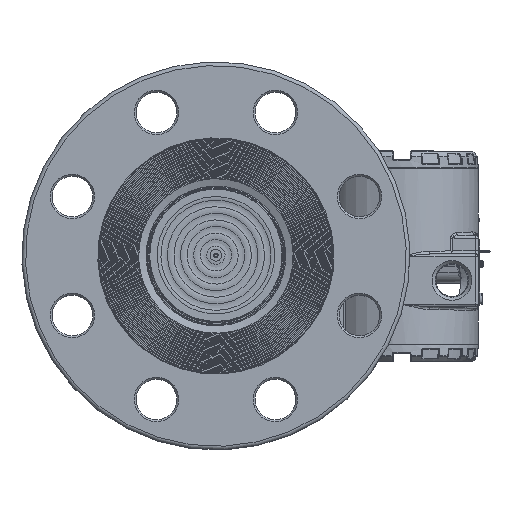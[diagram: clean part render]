
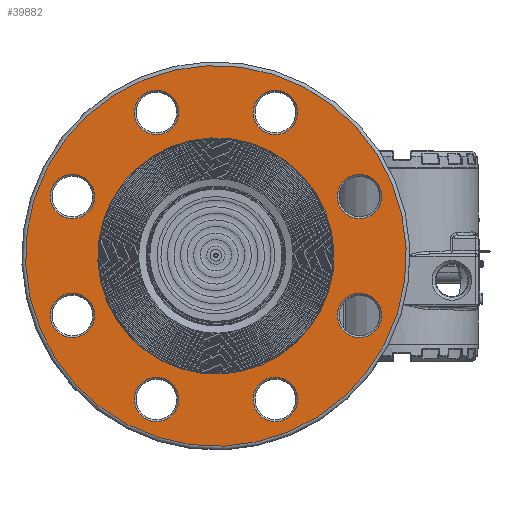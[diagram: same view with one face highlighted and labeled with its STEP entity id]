
A CAD part, top view. The second image highlights one B-rep face of the part: STEP entity #39882.
In plain terms, the highlighted planar face has unit normal (0, 0, 1).
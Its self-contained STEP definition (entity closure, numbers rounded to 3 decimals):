
#760=FACE_BOUND('',#6763,.T.);
#761=FACE_BOUND('',#6764,.T.);
#762=FACE_BOUND('',#6765,.T.);
#763=FACE_BOUND('',#6766,.T.);
#764=FACE_BOUND('',#6767,.T.);
#765=FACE_BOUND('',#6768,.T.);
#766=FACE_BOUND('',#6769,.T.);
#767=FACE_BOUND('',#6770,.T.);
#768=FACE_BOUND('',#6771,.T.);
#2825=PLANE('',#44264);
#4050=FACE_OUTER_BOUND('',#6762,.T.);
#6762=EDGE_LOOP('',(#30338));
#6763=EDGE_LOOP('',(#30339));
#6764=EDGE_LOOP('',(#30340));
#6765=EDGE_LOOP('',(#30341));
#6766=EDGE_LOOP('',(#30342));
#6767=EDGE_LOOP('',(#30343));
#6768=EDGE_LOOP('',(#30344));
#6769=EDGE_LOOP('',(#30345));
#6770=EDGE_LOOP('',(#30346));
#6771=EDGE_LOOP('',(#30347,#30348));
#12719=CIRCLE('',#44259,63.9);
#12723=CIRCLE('',#44263,63.9);
#12724=CIRCLE('',#44265,103.);
#12725=CIRCLE('',#44266,12.);
#12726=CIRCLE('',#44267,12.);
#12727=CIRCLE('',#44268,12.);
#12728=CIRCLE('',#44269,12.);
#12729=CIRCLE('',#44270,12.);
#12730=CIRCLE('',#44271,12.);
#12731=CIRCLE('',#44272,12.);
#12732=CIRCLE('',#44273,12.);
#17378=VERTEX_POINT('',#70946);
#17379=VERTEX_POINT('',#70947);
#17382=VERTEX_POINT('',#70956);
#17383=VERTEX_POINT('',#70958);
#17384=VERTEX_POINT('',#70960);
#17385=VERTEX_POINT('',#70962);
#17386=VERTEX_POINT('',#70964);
#17387=VERTEX_POINT('',#70966);
#17388=VERTEX_POINT('',#70968);
#17389=VERTEX_POINT('',#70970);
#17390=VERTEX_POINT('',#70972);
#21964=EDGE_CURVE('',#17378,#17379,#12719,.T.);
#21968=EDGE_CURVE('',#17379,#17378,#12723,.T.);
#21969=EDGE_CURVE('',#17382,#17382,#12724,.T.);
#21970=EDGE_CURVE('',#17383,#17383,#12725,.T.);
#21971=EDGE_CURVE('',#17384,#17384,#12726,.T.);
#21972=EDGE_CURVE('',#17385,#17385,#12727,.T.);
#21973=EDGE_CURVE('',#17386,#17386,#12728,.T.);
#21974=EDGE_CURVE('',#17387,#17387,#12729,.T.);
#21975=EDGE_CURVE('',#17388,#17388,#12730,.T.);
#21976=EDGE_CURVE('',#17389,#17389,#12731,.T.);
#21977=EDGE_CURVE('',#17390,#17390,#12732,.T.);
#30338=ORIENTED_EDGE('',*,*,#21969,.F.);
#30339=ORIENTED_EDGE('',*,*,#21970,.F.);
#30340=ORIENTED_EDGE('',*,*,#21971,.F.);
#30341=ORIENTED_EDGE('',*,*,#21972,.F.);
#30342=ORIENTED_EDGE('',*,*,#21973,.F.);
#30343=ORIENTED_EDGE('',*,*,#21974,.F.);
#30344=ORIENTED_EDGE('',*,*,#21975,.F.);
#30345=ORIENTED_EDGE('',*,*,#21976,.F.);
#30346=ORIENTED_EDGE('',*,*,#21977,.F.);
#30347=ORIENTED_EDGE('',*,*,#21964,.F.);
#30348=ORIENTED_EDGE('',*,*,#21968,.F.);
#39882=ADVANCED_FACE('',(#4050,#760,#761,#762,#763,#764,#765,#766,#767,
#768),#2825,.T.);
#44259=AXIS2_PLACEMENT_3D('',#70948,#52364,#52365);
#44263=AXIS2_PLACEMENT_3D('',#70954,#52372,#52373);
#44264=AXIS2_PLACEMENT_3D('',#70955,#52374,#52375);
#44265=AXIS2_PLACEMENT_3D('',#70957,#52376,#52377);
#44266=AXIS2_PLACEMENT_3D('',#70959,#52378,#52379);
#44267=AXIS2_PLACEMENT_3D('',#70961,#52380,#52381);
#44268=AXIS2_PLACEMENT_3D('',#70963,#52382,#52383);
#44269=AXIS2_PLACEMENT_3D('',#70965,#52384,#52385);
#44270=AXIS2_PLACEMENT_3D('',#70967,#52386,#52387);
#44271=AXIS2_PLACEMENT_3D('',#70969,#52388,#52389);
#44272=AXIS2_PLACEMENT_3D('',#70971,#52390,#52391);
#44273=AXIS2_PLACEMENT_3D('',#70973,#52392,#52393);
#52364=DIRECTION('center_axis',(0.,0.,1.));
#52365=DIRECTION('ref_axis',(-1.,0.,0.));
#52372=DIRECTION('center_axis',(0.,0.,1.));
#52373=DIRECTION('ref_axis',(-1.,0.,0.));
#52374=DIRECTION('center_axis',(0.,0.,1.));
#52375=DIRECTION('ref_axis',(1.,0.,0.));
#52376=DIRECTION('center_axis',(0.,0.,-1.));
#52377=DIRECTION('ref_axis',(-1.,0.,0.));
#52378=DIRECTION('center_axis',(0.,0.,1.));
#52379=DIRECTION('ref_axis',(0.,1.,0.));
#52380=DIRECTION('center_axis',(0.,0.,1.));
#52381=DIRECTION('ref_axis',(1.,0.,0.));
#52382=DIRECTION('center_axis',(0.,0.,1.));
#52383=DIRECTION('ref_axis',(-1.,0.,0.));
#52384=DIRECTION('center_axis',(0.,0.,1.));
#52385=DIRECTION('ref_axis',(0.707,-0.707,0.));
#52386=DIRECTION('center_axis',(0.,0.,1.));
#52387=DIRECTION('ref_axis',(0.,-1.,0.));
#52388=DIRECTION('center_axis',(0.,0.,1.));
#52389=DIRECTION('ref_axis',(-0.707,-0.707,0.));
#52390=DIRECTION('center_axis',(0.,0.,1.));
#52391=DIRECTION('ref_axis',(0.707,0.707,0.));
#52392=DIRECTION('center_axis',(0.,0.,1.));
#52393=DIRECTION('ref_axis',(-0.707,0.707,0.));
#70946=CARTESIAN_POINT('',(63.9,0.,31.8));
#70947=CARTESIAN_POINT('',(-63.9,0.,31.8));
#70948=CARTESIAN_POINT('Origin',(0.,0.,31.8));
#70954=CARTESIAN_POINT('Origin',(0.,0.,31.8));
#70955=CARTESIAN_POINT('Origin',(0.,0.,31.8));
#70956=CARTESIAN_POINT('',(103.,0.,31.8));
#70957=CARTESIAN_POINT('Origin',(0.,0.,31.8));
#70958=CARTESIAN_POINT('',(84.05,-12.,31.8));
#70959=CARTESIAN_POINT('Origin',(84.05,0.,31.8));
#70960=CARTESIAN_POINT('',(-12.,-84.05,31.8));
#70961=CARTESIAN_POINT('Origin',(0.,-84.05,31.8));
#70962=CARTESIAN_POINT('',(12.,84.05,31.8));
#70963=CARTESIAN_POINT('Origin',(0.,84.05,31.8));
#70964=CARTESIAN_POINT('',(-67.918,-50.947,31.8));
#70965=CARTESIAN_POINT('Origin',(-59.432,-59.432,31.8));
#70966=CARTESIAN_POINT('',(-84.05,12.,31.8));
#70967=CARTESIAN_POINT('Origin',(-84.05,0.,31.8));
#70968=CARTESIAN_POINT('',(-50.947,67.918,31.8));
#70969=CARTESIAN_POINT('Origin',(-59.432,59.432,31.8));
#70970=CARTESIAN_POINT('',(50.947,-67.918,31.8));
#70971=CARTESIAN_POINT('Origin',(59.432,-59.432,31.8));
#70972=CARTESIAN_POINT('',(67.918,50.947,31.8));
#70973=CARTESIAN_POINT('Origin',(59.432,59.432,31.8));
